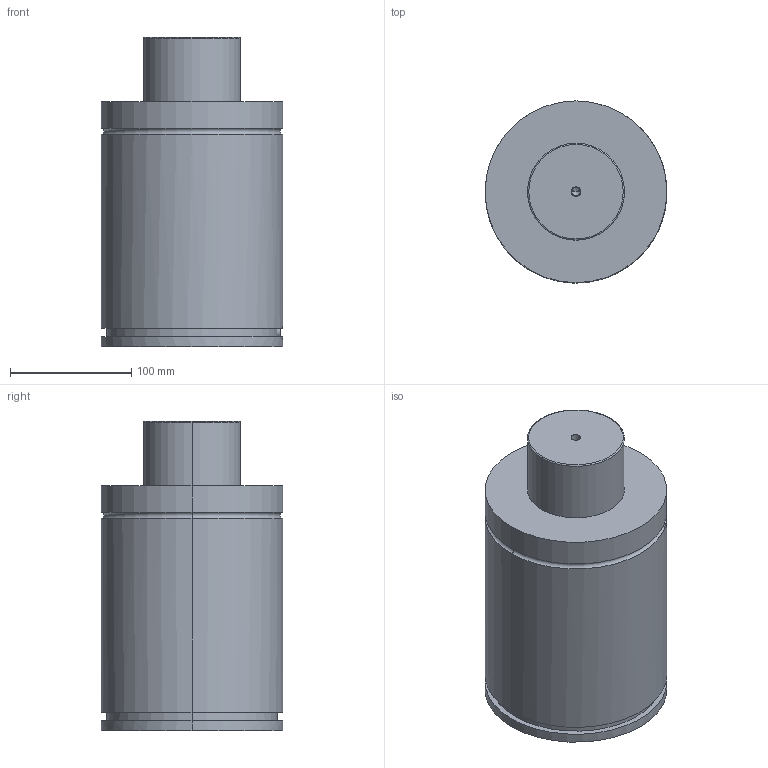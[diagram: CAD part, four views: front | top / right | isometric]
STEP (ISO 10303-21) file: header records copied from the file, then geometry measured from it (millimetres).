
FILE_DESCRIPTION(/* description */ (''),/* implementation_level */ '2;1');
FILE_NAME(/* name */ '3d_gse150-50_03871_r00.stp',/* time_stamp */ '2011-01-10T14:15:20+09:00',/* author */ ('MISUMI'),/* organization */ (''),/* preprocessor_version */ 'ST-DEVELOPER v11',/* originating_system */ 'UGS - NX 5.0',/* authorisation */ '');
FILE_SCHEMA (('CONFIG_CONTROL_DESIGN'));
Length unit declared in the file: millimetre
Products named in the file (1): 3d_gse150-50_03871_r00
Bounding box: 150 x 150 x 255 mm (x, y, z)
Volume: 3809489 mm3; surface area: 152197.2 mm2
Topology: 1 solids, 1 shells, 75 faces, 161 edges, 103 vertices
Faces by surface type: cylinder 34, plane 27, cone 10, torus 4
Entity records: 2145 total; most frequent: DIRECTION 393, CARTESIAN_POINT 360, ORIENTED_EDGE 318, AXIS2_PLACEMENT_3D 164, EDGE_CURVE 159, VERTEX_POINT 103, EDGE_LOOP 92, CIRCLE 88
